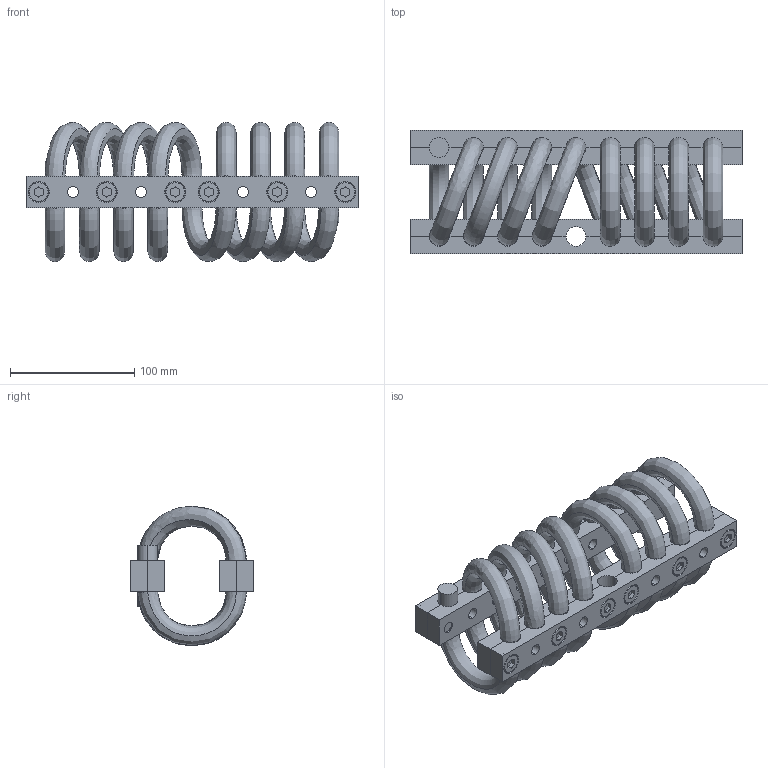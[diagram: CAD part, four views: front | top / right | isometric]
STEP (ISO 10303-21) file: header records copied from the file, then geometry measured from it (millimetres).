
FILE_DESCRIPTION (( 'STEP AP214' ), '1' );
FILE_NAME ('WR20-300-8DM.STEP', '2018-12-07T10:10:24', ( 'user' ), ( 'Microsoft' ), 'SwSTEP 2.0', 'SolidWorks 2016', '' );
FILE_SCHEMA (( 'AUTOMOTIVE_DESIGN' ));
Length unit declared in the file: millimetre
Products named in the file (1): WR20-300-8DM
Bounding box: 266.7 x 99 x 112 mm (x, y, z)
Volume: 748918.6 mm3; surface area: 242608.4 mm2
Topology: 34 solids, 34 shells, 672 faces, 1564 edges, 996 vertices
Faces by surface type: plane 300, cylinder 266, cone 72, bspline 34
Entity records: 36749 total; most frequent: CARTESIAN_POINT 19881, DIRECTION 3188, ORIENTED_EDGE 3128, EDGE_CURVE 1564, AXIS2_PLACEMENT_3D 1167, VERTEX_POINT 996, VECTOR 854, LINE 854
